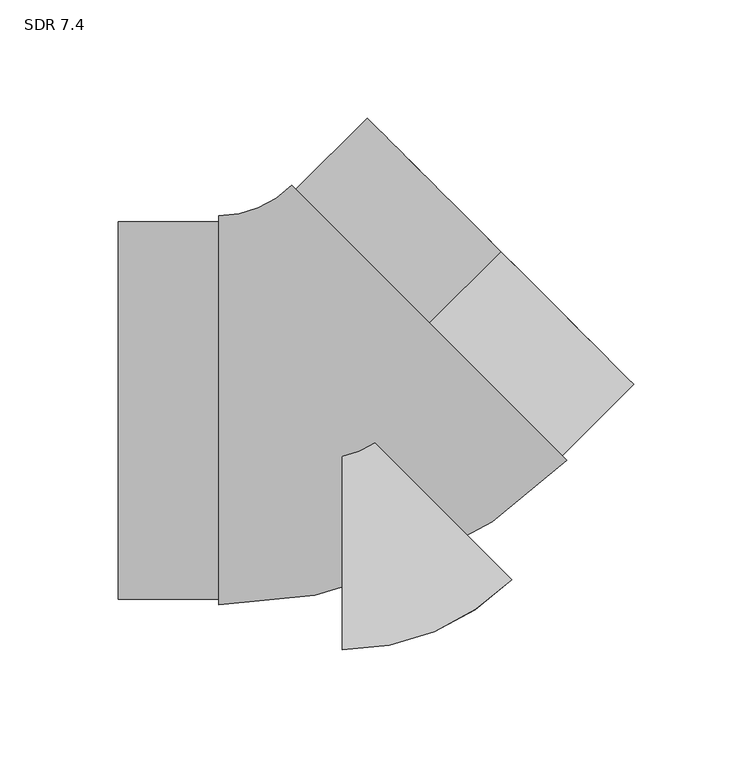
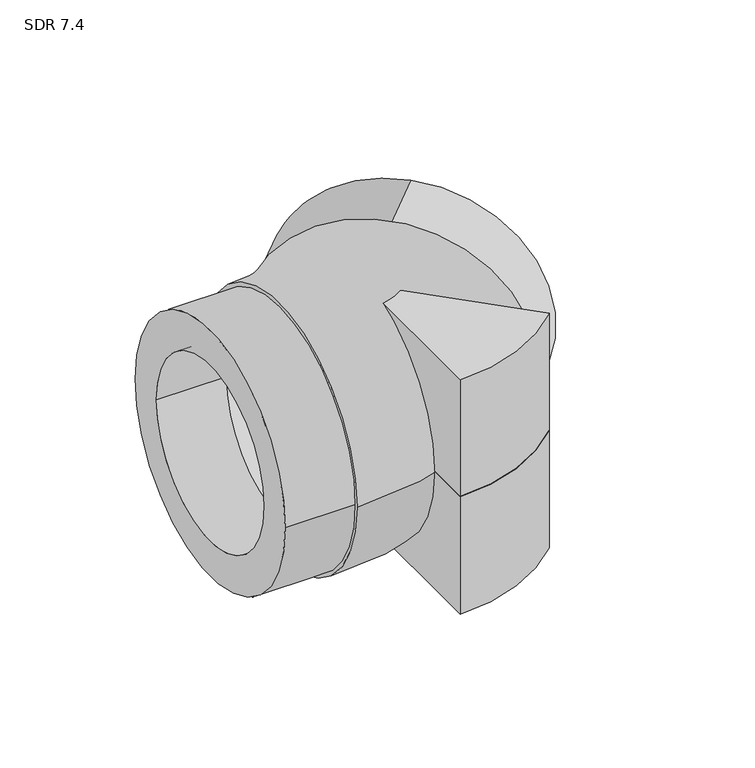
"""IFC4 building model written with IfcOpenShell, lengths in millimetres: pipe fitting geometry, Aquatherm - Elbow BW Molded : SDR 7.4."""

from ifc_helpers import new_model, si_unit, point, frame, frame_2d, origin, origin_with_axes, origin_2d, place, context, project, spatial, polyline, circle_curve, ellipse_curve, trimmed, segment, composite_curve, outline, extrude, source, transform, mapped, element, save
from ifc_brep_helpers import plane_surface, revolved_surface, advanced_brep


def sdr_7_4_61dc85d4(model_context):
    return source(origin(), model_context, "Body", "SolidModel", [
        extrude(outline(composite_curve([segment(polyline([(0.0, -101.6), (0.0, 0.0), (71.8455525, -71.8385453)]), True, "CONTINUOUS"), segment(trimmed(circle_curve(origin_2d(), 101.6), [point((71.8455525, -71.8385453))], [point((0.0, -101.6))], False, "CARTESIAN"), True, "CONTINUOUS")], self_intersect=False)), frame((0.0, 0.0, -76.2), z_axis=(0.0, 0.0, 1.0), x_axis=(1.0, 0.0, 0.0)), (0.0, 0.0, 1.0), 76.2),
        extrude(outline(composite_curve([segment(trimmed(circle_curve(origin_2d(), 101.6), [point((71.8455525, -71.8385453))], [point((0.0, -101.6))], False, "CARTESIAN"), True, "CONTINUOUS"), segment(polyline([(0.0, -101.6), (0.0, 0.0), (71.8455525, -71.8385453)]), True, "CONTINUOUS")], self_intersect=False)), origin_with_axes(), (0.0, 0.0, 1.0), 76.2),
        extrude(outline(composite_curve([segment(trimmed(circle_curve(frame_2d((0.0, -80.01)), 80.01), [point((0.0, -160.02))], [point((0.0, 0.0))], False, "CARTESIAN"), True, "CONTINUOUS"), segment(trimmed(circle_curve(frame_2d((0.0, -80.01)), 80.01), [point((0.0, 0.0))], [point((0.0, -160.02))], False, "CARTESIAN"), True, "CONTINUOUS")], self_intersect=False), holes=[composite_curve([segment(trimmed(circle_curve(frame_2d((0.0, -80.01)), 57.15), [point((0.0, -137.16))], [point((0.0, -22.86))], True, "CARTESIAN"), True, "CONTINUOUS"), segment(trimmed(circle_curve(frame_2d((0.0, -80.01)), 57.15), [point((0.0, -22.86))], [point((0.0, -137.16))], True, "CARTESIAN"), True, "CONTINUOUS")], self_intersect=False)]), frame((36.9429719, 36.9465754, 80.01), z_axis=(0.7070722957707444, 0.7071412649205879, 0.0), x_axis=(-0.7071412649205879, 0.7070722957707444, 0.0)), (0.0, 0.0, 1.0), 42.7482),
        extrude(outline(composite_curve([segment(trimmed(circle_curve(frame_2d((-0.1496481, 0.0)), 80.01), [point((79.8603519, 0.0))], [point((-80.1596481, 0.0))], False, "CARTESIAN"), True, "CONTINUOUS"), segment(trimmed(circle_curve(frame_2d((-0.1496481, 0.0)), 80.01), [point((-80.1596481, 0.0))], [point((79.8603519, 0.0))], False, "CARTESIAN"), True, "CONTINUOUS")], self_intersect=False), holes=[composite_curve([segment(trimmed(circle_curve(origin_2d(), 57.15), [point((57.15, 0.0))], [point((-57.15, 0.0))], True, "CARTESIAN"), True, "CONTINUOUS"), segment(trimmed(circle_curve(origin_2d(), 57.15), [point((-57.15, 0.0))], [point((57.15, 0.0))], True, "CARTESIAN"), True, "CONTINUOUS")], self_intersect=False)]), frame((-94.996, 0.0, 0.0), z_axis=(1.0, 0.0, 0.0), x_axis=(0.0, 1.0, 0.0)), (0.0, 0.0, 1.0), 42.7482),
        advanced_brep(
        [(-52.2478, -82.4103, 0.0), (-52.2478, 82.4103, 0.0), (-52.2478, -57.15, 0.0), (-52.2478, 57.15, 0.0), (95.2186957, -21.3234646, 0.0), (-21.3327519, 95.2166154, 0.0), (77.3560952, -3.4626063, 0.0), (-3.4701514, 77.3557571, 0.0)],
        [
            (0, 1, circle_curve(frame((-52.2478, 0.0, 0.0), z_axis=(-1.0, 0.0, 0.0), x_axis=(0.0, 1.0, 0.0)), 82.4103)),
            (1, 0, circle_curve(frame((-52.2478, 0.0, 0.0), z_axis=(-1.0, 0.0, 0.0), x_axis=(0.0, 1.0, 0.0)), 82.4103)),
            (2, 3, circle_curve(frame((-52.2478, 0.0, 0.0), z_axis=(1.0, 0.0, 0.0), x_axis=(0.0, 1.0, 0.0)), 57.15)),
            (3, 2, circle_curve(frame((-52.2478, 0.0, 0.0), z_axis=(1.0, 0.0, 0.0), x_axis=(0.0, 1.0, 0.0)), 57.15)),
            (4, 5, circle_curve(frame((36.9429719, 36.9465754, 0.0), z_axis=(0.7070722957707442, 0.707141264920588, 0.0), x_axis=(-0.707141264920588, 0.7070722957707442, 0.0)), 82.4103)),
            (5, 4, circle_curve(frame((36.9429719, 36.9465754, 0.0), z_axis=(0.7070722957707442, 0.707141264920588, 0.0), x_axis=(-0.707141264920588, 0.7070722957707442, 0.0)), 82.4103)),
            (6, 7, circle_curve(frame((36.9429719, 36.9465754, 0.0), z_axis=(-0.7070722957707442, -0.707141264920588, 0.0), x_axis=(-0.707141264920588, 0.7070722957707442, 0.0)), 57.15)),
            (7, 6, circle_curve(frame((36.9429719, 36.9465754, 0.0), z_axis=(-0.7070722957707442, -0.707141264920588, 0.0), x_axis=(-0.707141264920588, 0.7070722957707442, 0.0)), 57.15)),
            (5, 1, circle_curve(frame((-52.2478, 126.1286483, 0.0), z_axis=(0.0, 0.0, -1.0), x_axis=(0.0, -1.0, 0.0)), 43.7183483)),
            (0, 4, circle_curve(frame((-52.2478, 126.1286483, 0.0), z_axis=(0.0, 0.0, 1.0), x_axis=(0.0, -1.0, 0.0)), 208.5389483)),
            (7, 3, circle_curve(frame((-52.2478, 126.1286483, 0.0), z_axis=(0.0, 0.0, -1.0), x_axis=(0.0, -1.0, 0.0)), 68.9786483)),
            (2, 6, circle_curve(frame((-52.2478, 126.1286483, 0.0), z_axis=(0.0, 0.0, 1.0), x_axis=(0.0, -1.0, 0.0)), 183.2786483)),
        ],
        [
            plane_surface(frame((-52.2478, 0.0, 0.0), z_axis=(-1.0, 0.0, 0.0), x_axis=(0.0, 0.0, 1.0))),
            plane_surface(frame((36.9429719, 36.9465754, 0.0), z_axis=(0.7070722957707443, 0.7071412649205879, 0.0), x_axis=(0.0, 0.0, 1.0))),
            revolved_surface(trimmed(ellipse_curve(frame((-52.2478, 0.0, 0.0), z_axis=(-1.0, 0.0, 0.0), x_axis=(0.0, 1.0, 0.0)), 82.4103, 82.4103), [point((-52.2478, -82.4103, 0.0))], [point((-52.2478, 82.4103, 0.0))], True, "CARTESIAN"), (-52.2478, 126.1286483, 0.0), (0.0, 0.0, 1.0)),
            revolved_surface(trimmed(ellipse_curve(frame((-52.2478, 0.0, 0.0), z_axis=(-1.0, 0.0, 0.0), x_axis=(0.0, 1.0, 0.0)), 82.4103, 82.4103), [point((-52.2478, 82.4103, 0.0))], [point((-52.2478, -82.4103, 0.0))], True, "CARTESIAN"), (-52.2478, 126.1286483, 0.0), (0.0, 0.0, 1.0)),
            revolved_surface(trimmed(ellipse_curve(frame((-52.2478, 0.0, 0.0), z_axis=(1.0, 0.0, 0.0), x_axis=(0.0, 1.0, 0.0)), 57.15, 57.15), [point((-52.2478, -57.15, 0.0))], [point((-52.2478, 57.15, 0.0))], True, "CARTESIAN"), (-52.2478, 126.1286483, 0.0), (0.0, 0.0, 1.0)),
            revolved_surface(trimmed(ellipse_curve(frame((-52.2478, 0.0, 0.0), z_axis=(1.0, 0.0, 0.0), x_axis=(0.0, 1.0, 0.0)), 57.15, 57.15), [point((-52.2478, 57.15, 0.0))], [point((-52.2478, -57.15, 0.0))], True, "CARTESIAN"), (-52.2478, 126.1286483, 0.0), (0.0, 0.0, 1.0)),
        ],
        [
            (0, [[1, 2], [3, 4]]),
            (1, [[5, 6], [7, 8]]),
            (2, [[9, -1, 10, -6]]),
            (3, [[-10, -2, -9, -5]]),
            (4, [[11, -3, 12, -8]]),
            (5, [[-12, -4, -11, -7]]),
        ],
    ),
    ])


if __name__ == "__main__":
    model = new_model("IFC4")
    model_context = context("Model", 3, world=origin())
    ifc_project = project(units=[si_unit("LENGTHUNIT", "METRE", prefix="MILLI")], contexts=[model_context])
    site = spatial("IfcSite", under=ifc_project)
    building = spatial("IfcBuilding", under=site)
    placement = place(None, origin())
    sdr_7_4_shape = sdr_7_4_61dc85d4(model_context)
    element("IfcPipeFitting", 1, ObjectType="Aquatherm - Elbow BW Molded : SDR 7.4", at=placement, inside=building, context=model_context, shape_type="MappedRepresentation", body=[
        mapped(sdr_7_4_shape, transform((0.0, 0.0, 0.0), x_axis=(1.0, 0.0, 0.0), y_axis=(0.0, 1.0, 0.0), z_axis=(0.0, 0.0, 1.0))),
    ])
    save(model, "model.ifc")
